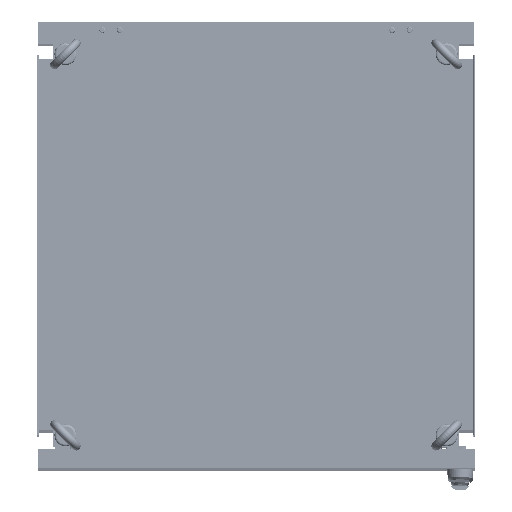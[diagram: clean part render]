
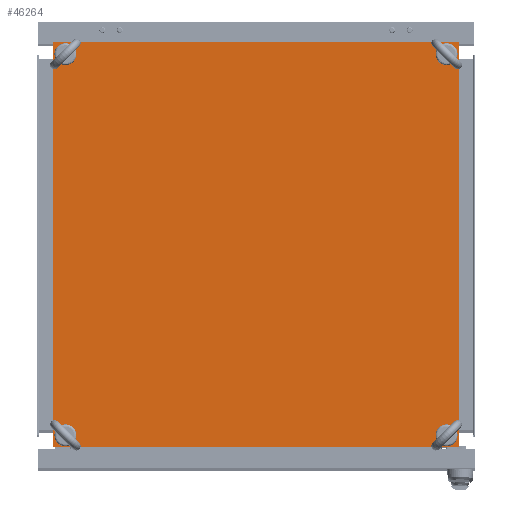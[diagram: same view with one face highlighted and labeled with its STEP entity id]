
A CAD part, top view. The second image highlights one B-rep face of the part: STEP entity #46264.
In plain terms, the highlighted planar face has unit normal (0, 0, 1).
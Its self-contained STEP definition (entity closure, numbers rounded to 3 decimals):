
#67=VERTEX_LOOP('',#32704);
#68=VERTEX_LOOP('',#32705);
#69=VERTEX_LOOP('',#32706);
#70=VERTEX_LOOP('',#32707);
#5476=LINE('',#74137,#10276);
#5477=LINE('',#74140,#10277);
#5478=LINE('',#74142,#10278);
#5479=LINE('',#74144,#10279);
#10276=VECTOR('',#61003,1000.);
#10277=VECTOR('',#61004,1000.);
#10278=VECTOR('',#61005,1000.);
#10279=VECTOR('',#61006,1000.);
#20277=ORIENTED_EDGE('',*,*,#27952,.F.);
#20278=ORIENTED_EDGE('',*,*,#27953,.F.);
#20279=ORIENTED_EDGE('',*,*,#27954,.F.);
#20280=ORIENTED_EDGE('',*,*,#27955,.F.);
#20281=ORIENTED_EDGE('',*,*,#27956,.F.);
#20282=ORIENTED_EDGE('',*,*,#27957,.F.);
#20283=ORIENTED_EDGE('',*,*,#27958,.F.);
#20284=ORIENTED_EDGE('',*,*,#27959,.F.);
#27952=EDGE_CURVE('',#32700,#32700,#34491,.T.);
#27953=EDGE_CURVE('',#32701,#32701,#34492,.T.);
#27954=EDGE_CURVE('',#32702,#32702,#34493,.T.);
#27955=EDGE_CURVE('',#32703,#32703,#34494,.T.);
#27956=EDGE_CURVE('',#32708,#32709,#5476,.T.);
#27957=EDGE_CURVE('',#32710,#32708,#5477,.T.);
#27958=EDGE_CURVE('',#32711,#32710,#5478,.T.);
#27959=EDGE_CURVE('',#32709,#32711,#5479,.T.);
#32700=VERTEX_POINT('',#74126);
#32701=VERTEX_POINT('',#74128);
#32702=VERTEX_POINT('',#74130);
#32703=VERTEX_POINT('',#74132);
#32704=VERTEX_POINT('',#74133);
#32705=VERTEX_POINT('',#74134);
#32706=VERTEX_POINT('',#74135);
#32707=VERTEX_POINT('',#74136);
#32708=VERTEX_POINT('',#74138);
#32709=VERTEX_POINT('',#74139);
#32710=VERTEX_POINT('',#74141);
#32711=VERTEX_POINT('',#74143);
#34491=CIRCLE('',#51118,6.5);
#34492=CIRCLE('',#51119,6.5);
#34493=CIRCLE('',#51120,6.5);
#34494=CIRCLE('',#51121,6.5);
#37840=EDGE_LOOP('',(#20277));
#37841=EDGE_LOOP('',(#20278));
#37842=EDGE_LOOP('',(#20279));
#37843=EDGE_LOOP('',(#20280));
#37844=EDGE_LOOP('',(#20281,#20282,#20283,#20284));
#41808=FACE_BOUND('',#37840,.T.);
#41809=FACE_BOUND('',#37841,.T.);
#41810=FACE_BOUND('',#37842,.T.);
#41811=FACE_BOUND('',#37843,.T.);
#41812=FACE_BOUND('',#67,.T.);
#41813=FACE_BOUND('',#68,.T.);
#41814=FACE_BOUND('',#69,.T.);
#41815=FACE_BOUND('',#70,.T.);
#41816=FACE_BOUND('',#37844,.T.);
#44234=PLANE('',#51117);
#46264=ADVANCED_FACE('',(#41808,#41809,#41810,#41811,#41812,#41813,#41814,
#41815,#41816),#44234,.F.);
#51117=AXIS2_PLACEMENT_3D('',#74124,#60993,#60994);
#51118=AXIS2_PLACEMENT_3D('',#74125,#60995,#60996);
#51119=AXIS2_PLACEMENT_3D('',#74127,#60997,#60998);
#51120=AXIS2_PLACEMENT_3D('',#74129,#60999,#61000);
#51121=AXIS2_PLACEMENT_3D('',#74131,#61001,#61002);
#60993=DIRECTION('',(0.,0.,-1.));
#60994=DIRECTION('',(-1.,0.,0.));
#60995=DIRECTION('',(0.,0.,1.));
#60996=DIRECTION('',(1.,0.,0.));
#60997=DIRECTION('',(0.,0.,1.));
#60998=DIRECTION('',(1.,0.,0.));
#60999=DIRECTION('',(0.,0.,1.));
#61000=DIRECTION('',(1.,0.,0.));
#61001=DIRECTION('',(0.,0.,1.));
#61002=DIRECTION('',(1.,0.,0.));
#61003=DIRECTION('',(0.,1.,0.));
#61004=DIRECTION('',(-1.,0.,0.));
#61005=DIRECTION('',(0.,-1.,0.));
#61006=DIRECTION('',(1.,0.,0.));
#74124=CARTESIAN_POINT('',(0.,0.,0.));
#74125=CARTESIAN_POINT('',(260.5,260.5,0.));
#74126=CARTESIAN_POINT('',(267.,260.5,0.));
#74127=CARTESIAN_POINT('',(-260.5,260.5,0.));
#74128=CARTESIAN_POINT('',(-254.,260.5,0.));
#74129=CARTESIAN_POINT('',(260.5,-260.5,0.));
#74130=CARTESIAN_POINT('',(267.,-260.5,0.));
#74131=CARTESIAN_POINT('',(-260.5,-260.5,0.));
#74132=CARTESIAN_POINT('',(-254.,-260.5,0.));
#74133=CARTESIAN_POINT('',(-274.2,-274.201,0.));
#74134=CARTESIAN_POINT('',(274.201,-274.201,0.));
#74135=CARTESIAN_POINT('',(-274.201,274.201,0.));
#74136=CARTESIAN_POINT('',(274.2,274.201,0.));
#74137=CARTESIAN_POINT('',(-277.,-277.,0.));
#74138=CARTESIAN_POINT('',(-277.,-277.,0.));
#74139=CARTESIAN_POINT('',(-277.,277.,0.));
#74140=CARTESIAN_POINT('',(277.,-277.,0.));
#74141=CARTESIAN_POINT('',(277.,-277.,0.));
#74142=CARTESIAN_POINT('',(277.,277.,0.));
#74143=CARTESIAN_POINT('',(277.,277.,0.));
#74144=CARTESIAN_POINT('',(-277.,277.,0.));
